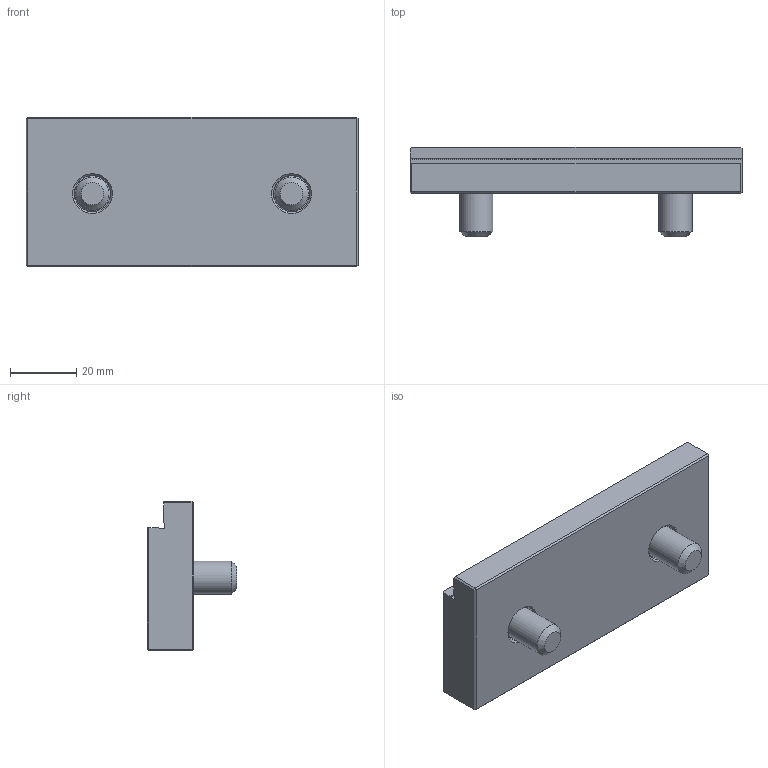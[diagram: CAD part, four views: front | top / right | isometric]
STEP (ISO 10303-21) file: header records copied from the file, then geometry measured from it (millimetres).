
FILE_DESCRIPTION(('STEP AP214'), '1');
FILE_NAME('BB.VS.100.70.040', '', ('UNSPECIFIED'), ('UNSPECIFIED'), 'C3D Converter', 'C3D Toolkit', '');
FILE_SCHEMA(('AUTOMOTIVE_DESIGN { 1 0 10303 214 3 1 1}'));
Length unit declared in the file: millimetre
Products named in the file (1): BB.VS.100.70.040 СБ
Bounding box: 100 x 27 x 45 mm (x, y, z)
Volume: 58447.7 mm3; surface area: 16521.7 mm2
Topology: 1 solids, 1 shells, 72 faces, 156 edges, 94 vertices
Faces by surface type: plane 49, cone 10, cylinder 9, torus 4
Full cylindrical faces by diameter (mm): 10 x2, 11 x2, 16 x2, 18 x2
Entity records: 2855 total; most frequent: CARTESIAN_POINT 787, DIRECTION 294, ORIENTED_EDGE 264, EDGE_CURVE 132, AXIS2_PLACEMENT_3D 103, EDGE_LOOP 102, VERTEX_POINT 92, LINE 88
